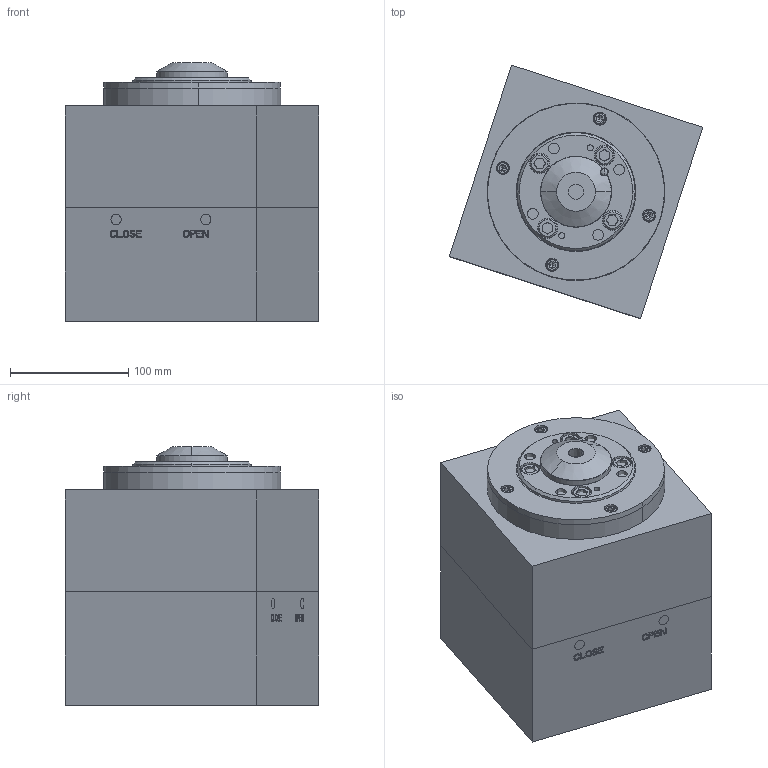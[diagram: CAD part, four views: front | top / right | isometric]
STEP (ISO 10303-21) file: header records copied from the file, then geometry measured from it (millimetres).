
FILE_DESCRIPTION((''),'2;1');
FILE_NAME('99M0012_ASM','2018-06-11T',('alessio.puddu'),('Thermoplay S.p.A.'),'PRO/ENGINEER BY PARAMETRIC TECHNOLOGY CORPORATION, 2014200','PRO/ENGINEER BY PARAMETRIC TECHNOLOGY CORPORATION, 2014200','');
FILE_SCHEMA(('CONFIG_CONTROL_DESIGN'));
Products named in the file (6): MG46096-3DSLA-N-45-R000-JG; MG46-3DSLA-PPU-WEB; MG46-3DSLA-PSUP-WEB; MG46-3DSLA-AC-WEB; MG46-3DSLA-TAGLIO-WEB; 99M0012_ASM
Assembly tree (5 placements, depth 2):
  99M0012_ASM
    MG46096-3DSLA-N-45-R000-JG
    MG46-3DSLA-PPU-WEB
    MG46-3DSLA-PSUP-WEB
    MG46-3DSLA-AC-WEB
    MG46-3DSLA-TAGLIO-WEB
Bounding box: 214.21 x 214.21 x 218.9 mm (x, y, z)
Volume: 6526766.1 mm3; surface area: 587588.2 mm2
Topology: 22 solids, 26 shells, 2614 faces, 6619 edges, 4102 vertices
Faces by surface type: plane 1224, cylinder 769, cone 286, bspline 185, torus 110, sphere 32, revolution 8
Entity records: 107730 total; most frequent: CARTESIAN_POINT 40345, ORIENTED_EDGE 13082, DIRECTION 12164, EDGE_CURVE 6541, AXIS2_PLACEMENT_3D 4318, VERTEX_POINT 4102, VECTOR 3520, LINE 3520
